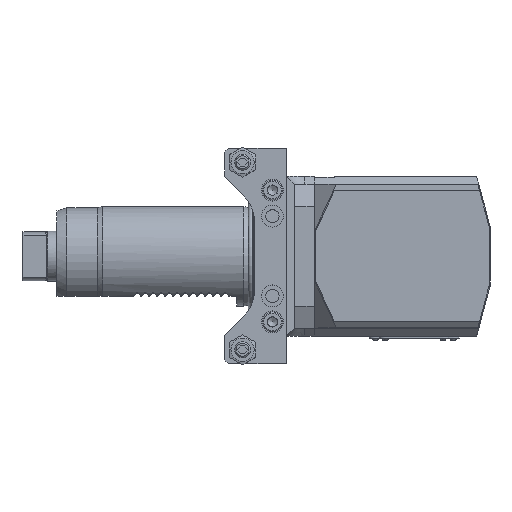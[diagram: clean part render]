
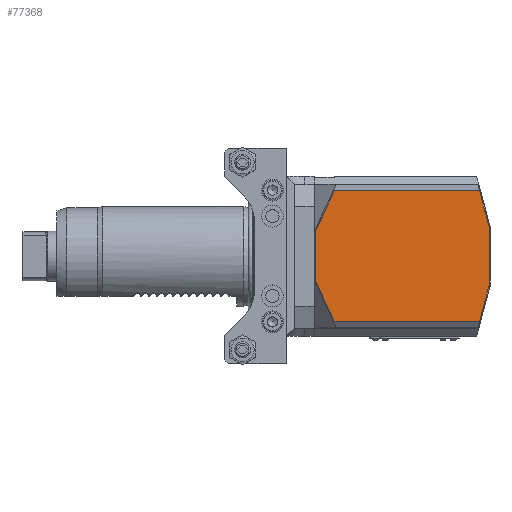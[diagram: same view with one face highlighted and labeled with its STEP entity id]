
A CAD part, top view. The second image highlights one B-rep face of the part: STEP entity #77368.
In plain terms, the highlighted planar face has unit normal (0, 0, 1) as drawn and (-1, 0, 0) by its records, which use the part's own axes.
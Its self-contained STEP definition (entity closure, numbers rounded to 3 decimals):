
#35045=VECTOR('',#59682,1.);
#35056=VECTOR('',#59697,1.);
#35061=VECTOR('',#59704,1.);
#35062=VECTOR('',#59705,1.);
#35063=VECTOR('',#59706,1.);
#35064=VECTOR('',#59707,1.);
#35065=VECTOR('',#59708,1.);
#35066=VECTOR('',#59709,1.);
#37077=LINE('',#70741,#35045);
#37088=LINE('',#70764,#35056);
#37093=LINE('',#70773,#35061);
#37094=LINE('',#70775,#35062);
#37095=LINE('',#70776,#35063);
#37096=LINE('',#70778,#35064);
#37097=LINE('',#70780,#35065);
#37098=LINE('',#70781,#35066);
#39086=PLANE('',#75674);
#44047=ORIENTED_EDGE('',*,*,#51042,.F.);
#44048=ORIENTED_EDGE('',*,*,#51058,.F.);
#44049=ORIENTED_EDGE('',*,*,#51059,.F.);
#44050=ORIENTED_EDGE('',*,*,#51060,.F.);
#44051=ORIENTED_EDGE('',*,*,#51053,.F.);
#44052=ORIENTED_EDGE('',*,*,#51061,.F.);
#44053=ORIENTED_EDGE('',*,*,#51062,.F.);
#44054=ORIENTED_EDGE('',*,*,#51063,.F.);
#48113=VERTEX_POINT('',#70738);
#48114=VERTEX_POINT('',#70740);
#48123=VERTEX_POINT('',#70762);
#48124=VERTEX_POINT('',#70763);
#48127=VERTEX_POINT('',#70772);
#48128=VERTEX_POINT('',#70774);
#48129=VERTEX_POINT('',#70777);
#48130=VERTEX_POINT('',#70779);
#51042=EDGE_CURVE('',#48113,#48114,#37077,.T.);
#51053=EDGE_CURVE('',#48123,#48124,#37088,.T.);
#51058=EDGE_CURVE('',#48127,#48113,#37093,.T.);
#51059=EDGE_CURVE('',#48128,#48127,#37094,.T.);
#51060=EDGE_CURVE('',#48124,#48128,#37095,.T.);
#51061=EDGE_CURVE('',#48129,#48123,#37096,.T.);
#51062=EDGE_CURVE('',#48130,#48129,#37097,.T.);
#51063=EDGE_CURVE('',#48114,#48130,#37098,.T.);
#53348=EDGE_LOOP('',(#44047,#44048,#44049,#44050,#44051,#44052,#44053,#44054));
#55146=FACE_BOUND('',#53348,.T.);
#59682=DIRECTION('',(0.,-72.709,0.));
#59697=DIRECTION('',(0.,72.709,0.));
#59702=DIRECTION('',(-1.,0.,0.));
#59703=DIRECTION('',(0.,1.,0.));
#59704=DIRECTION('',(0.,-9.524,20.425));
#59705=DIRECTION('',(0.,0.,24.599));
#59706=DIRECTION('',(0.,9.524,20.425));
#59707=DIRECTION('',(0.,4.767,-17.79));
#59708=DIRECTION('',(0.,0.,-29.868));
#59709=DIRECTION('',(0.,-4.767,-17.79));
#70738=CARTESIAN_POINT('',(46.381,126.198,32.724));
#70740=CARTESIAN_POINT('',(46.381,53.489,32.724));
#70741=CARTESIAN_POINT('',(46.381,126.198,32.724));
#70762=CARTESIAN_POINT('',(46.381,53.489,-32.724));
#70763=CARTESIAN_POINT('',(46.381,126.198,-32.724));
#70764=CARTESIAN_POINT('',(46.381,53.489,-32.724));
#70771=CARTESIAN_POINT('',(46.381,48.222,0.));
#70772=CARTESIAN_POINT('',(46.381,135.722,12.3));
#70773=CARTESIAN_POINT('',(46.381,135.722,12.3));
#70774=CARTESIAN_POINT('',(46.381,135.722,-12.3));
#70775=CARTESIAN_POINT('',(46.381,135.722,-12.3));
#70776=CARTESIAN_POINT('',(46.381,126.198,-32.724));
#70777=CARTESIAN_POINT('',(46.381,48.722,-14.934));
#70778=CARTESIAN_POINT('',(46.381,48.722,-14.934));
#70779=CARTESIAN_POINT('',(46.381,48.722,14.934));
#70780=CARTESIAN_POINT('',(46.381,48.722,14.934));
#70781=CARTESIAN_POINT('',(46.381,53.489,32.724));
#75674=AXIS2_PLACEMENT_3D('',#70771,#59702,#59703);
#77368=ADVANCED_FACE('',(#55146),#39086,.T.);
